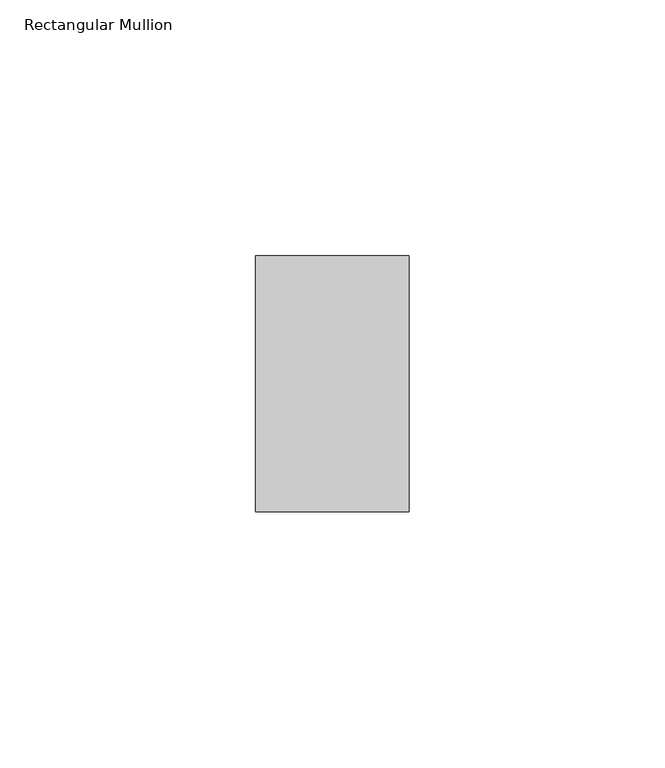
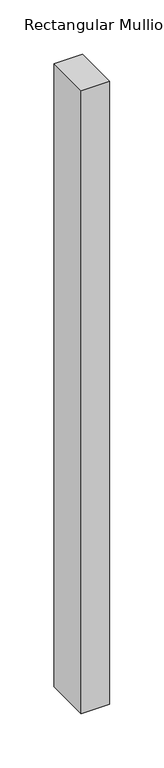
"""IFC4 building model written with IfcOpenShell, lengths in millimetres: member geometry, Rectangular Mullion : ARQ_TV_MULL_50x30mm."""

from ifc_helpers import new_model, si_unit, frame, origin, place, context, project, spatial, polyline, outline, extrude, source, transform, mapped, element, save


def rectangular_mullion_a87e72df(model_context):
    return source(origin(), model_context, "Body", "SweptSolid", [
        extrude(outline(polyline([(15.0, 25.0), (15.0, -25.0), (-15.0, -25.0), (-15.0, 25.0), (15.0, 25.0)])), frame((0.0, 0.0, -700.0), z_axis=(0.0, 0.0, 1.0), x_axis=(1.0, 0.0, 0.0)), (0.0, 0.0, 1.0), 700.0),
    ])


if __name__ == "__main__":
    model = new_model("IFC4")
    model_context = context("Model", 3, world=origin())
    ifc_project = project(units=[si_unit("LENGTHUNIT", "METRE", prefix="MILLI")], contexts=[model_context])
    site = spatial("IfcSite", under=ifc_project)
    building = spatial("IfcBuilding", under=site)
    placement = place(None, origin())
    rectangular_mullion_shape = rectangular_mullion_a87e72df(model_context)
    element("IfcMember", 1, ObjectType="Rectangular Mullion : ARQ_TV_MULL_50x30mm", at=placement, inside=building, context=model_context, shape_type="MappedRepresentation", body=[
        mapped(rectangular_mullion_shape, transform((0.0, 0.0, 0.0), x_axis=(1.0, 0.0, 0.0), y_axis=(0.0, 1.0, 0.0), z_axis=(0.0, 0.0, 1.0))),
    ])
    save(model, "model.ifc")
